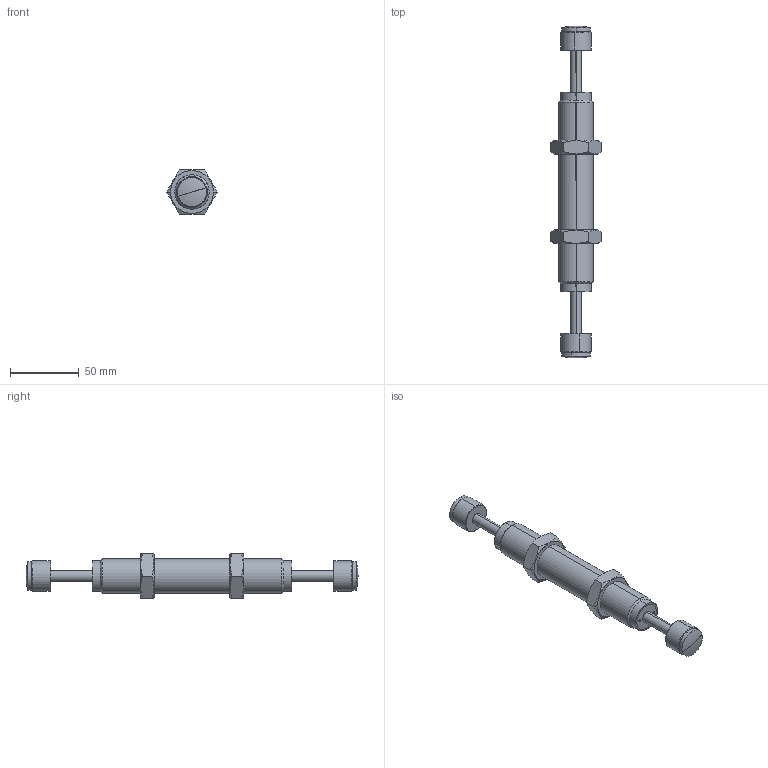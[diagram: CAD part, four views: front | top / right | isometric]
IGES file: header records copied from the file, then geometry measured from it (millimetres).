
Start section: SolidWorks IGES file using analytic representation for surfaces
Bounding box: 36.95 x 241.08 x 32 mm (x, y, z)
Surface area: 23154.5 mm2 (no closed solid volume)
Topology: 0 solids, 0 shells, 78 faces, 1648 edges, 1646 vertices
Faces by surface type: revolution 54, bspline 24
